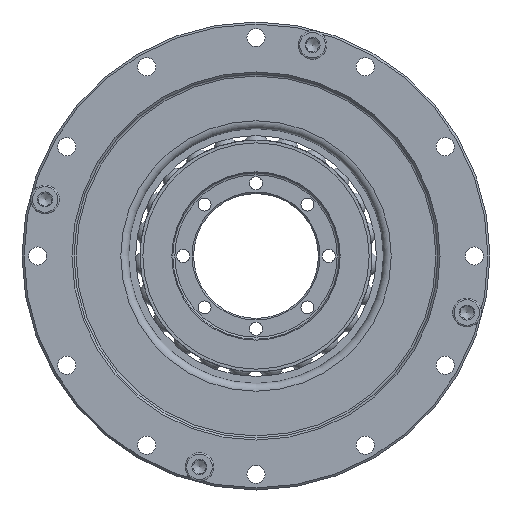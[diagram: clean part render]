
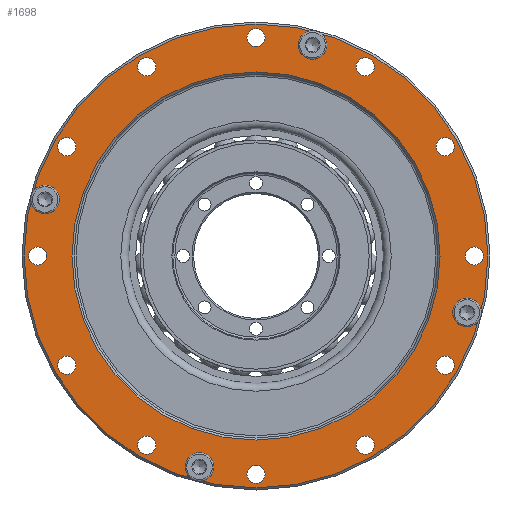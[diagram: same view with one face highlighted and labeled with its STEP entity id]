
A CAD part, left-side view. The second image highlights one B-rep face of the part: STEP entity #1698.
In plain terms, the highlighted planar face has unit normal (-1, 0, 0).
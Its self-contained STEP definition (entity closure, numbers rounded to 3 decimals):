
#1698=ADVANCED_FACE('',(#2468,#2469,#2470,#2471,#2472,#2473,#2474,#2475,
#2476,#2477,#2478,#2479,#2480,#2481,#2482,#2483,#2484,#2485),#2263,.T.);
#2263=PLANE('',#8911);
#2468=FACE_BOUND('',#3217,.T.);
#2469=FACE_BOUND('',#3218,.T.);
#2470=FACE_BOUND('',#3219,.T.);
#2471=FACE_BOUND('',#3220,.T.);
#2472=FACE_BOUND('',#3221,.T.);
#2473=FACE_BOUND('',#3222,.T.);
#2474=FACE_BOUND('',#3223,.T.);
#2475=FACE_BOUND('',#3224,.T.);
#2476=FACE_BOUND('',#3225,.T.);
#2477=FACE_BOUND('',#3226,.T.);
#2478=FACE_BOUND('',#3227,.T.);
#2479=FACE_BOUND('',#3228,.T.);
#2480=FACE_BOUND('',#3229,.T.);
#2481=FACE_BOUND('',#3230,.T.);
#2482=FACE_BOUND('',#3231,.T.);
#2483=FACE_BOUND('',#3232,.T.);
#2484=FACE_BOUND('',#3233,.T.);
#2485=FACE_BOUND('',#3234,.T.);
#3217=EDGE_LOOP('',(#4173));
#3218=EDGE_LOOP('',(#4174));
#3219=EDGE_LOOP('',(#4175));
#3220=EDGE_LOOP('',(#4176));
#3221=EDGE_LOOP('',(#4177));
#3222=EDGE_LOOP('',(#4178));
#3223=EDGE_LOOP('',(#4179));
#3224=EDGE_LOOP('',(#4180));
#3225=EDGE_LOOP('',(#4181));
#3226=EDGE_LOOP('',(#4182));
#3227=EDGE_LOOP('',(#4183));
#3228=EDGE_LOOP('',(#4184));
#3229=EDGE_LOOP('',(#4185));
#3230=EDGE_LOOP('',(#4186));
#3231=EDGE_LOOP('',(#4187));
#3232=EDGE_LOOP('',(#4188));
#3233=EDGE_LOOP('',(#4189));
#3234=EDGE_LOOP('',(#4190));
#4173=ORIENTED_EDGE('',*,*,#6996,.T.);
#4174=ORIENTED_EDGE('',*,*,#6997,.T.);
#4175=ORIENTED_EDGE('',*,*,#6990,.T.);
#4176=ORIENTED_EDGE('',*,*,#6989,.T.);
#4177=ORIENTED_EDGE('',*,*,#6988,.T.);
#4178=ORIENTED_EDGE('',*,*,#6987,.T.);
#4179=ORIENTED_EDGE('',*,*,#6986,.T.);
#4180=ORIENTED_EDGE('',*,*,#6985,.T.);
#4181=ORIENTED_EDGE('',*,*,#6984,.T.);
#4182=ORIENTED_EDGE('',*,*,#6983,.T.);
#4183=ORIENTED_EDGE('',*,*,#6982,.T.);
#4184=ORIENTED_EDGE('',*,*,#6981,.T.);
#4185=ORIENTED_EDGE('',*,*,#6980,.T.);
#4186=ORIENTED_EDGE('',*,*,#6979,.T.);
#4187=ORIENTED_EDGE('',*,*,#6978,.T.);
#4188=ORIENTED_EDGE('',*,*,#6977,.T.);
#4189=ORIENTED_EDGE('',*,*,#6976,.T.);
#4190=ORIENTED_EDGE('',*,*,#6975,.T.);
#6161=VERTEX_POINT('',#12496);
#6162=VERTEX_POINT('',#12499);
#6163=VERTEX_POINT('',#12502);
#6164=VERTEX_POINT('',#12505);
#6165=VERTEX_POINT('',#12508);
#6166=VERTEX_POINT('',#12511);
#6167=VERTEX_POINT('',#12514);
#6168=VERTEX_POINT('',#12517);
#6169=VERTEX_POINT('',#12520);
#6170=VERTEX_POINT('',#12523);
#6171=VERTEX_POINT('',#12526);
#6172=VERTEX_POINT('',#12529);
#6173=VERTEX_POINT('',#12532);
#6174=VERTEX_POINT('',#12535);
#6175=VERTEX_POINT('',#12538);
#6176=VERTEX_POINT('',#12541);
#6182=VERTEX_POINT('',#12557);
#6183=VERTEX_POINT('',#12559);
#6975=EDGE_CURVE('',#6161,#6161,#8108,.T.);
#6976=EDGE_CURVE('',#6162,#6162,#8109,.T.);
#6977=EDGE_CURVE('',#6163,#6163,#8110,.T.);
#6978=EDGE_CURVE('',#6164,#6164,#8111,.T.);
#6979=EDGE_CURVE('',#6165,#6165,#8112,.T.);
#6980=EDGE_CURVE('',#6166,#6166,#8113,.T.);
#6981=EDGE_CURVE('',#6167,#6167,#8114,.T.);
#6982=EDGE_CURVE('',#6168,#6168,#8115,.T.);
#6983=EDGE_CURVE('',#6169,#6169,#8116,.T.);
#6984=EDGE_CURVE('',#6170,#6170,#8117,.T.);
#6985=EDGE_CURVE('',#6171,#6171,#8118,.T.);
#6986=EDGE_CURVE('',#6172,#6172,#8119,.T.);
#6987=EDGE_CURVE('',#6173,#6173,#8120,.T.);
#6988=EDGE_CURVE('',#6174,#6174,#8121,.T.);
#6989=EDGE_CURVE('',#6175,#6175,#8122,.T.);
#6990=EDGE_CURVE('',#6176,#6176,#8123,.T.);
#6996=EDGE_CURVE('',#6182,#6182,#8129,.T.);
#6997=EDGE_CURVE('',#6183,#6183,#8130,.T.);
#8108=CIRCLE('',#8869,1.75);
#8109=CIRCLE('',#8871,1.75);
#8110=CIRCLE('',#8873,1.75);
#8111=CIRCLE('',#8875,1.75);
#8112=CIRCLE('',#8877,1.75);
#8113=CIRCLE('',#8879,1.75);
#8114=CIRCLE('',#8881,1.75);
#8115=CIRCLE('',#8883,1.75);
#8116=CIRCLE('',#8885,1.75);
#8117=CIRCLE('',#8887,1.75);
#8118=CIRCLE('',#8889,1.75);
#8119=CIRCLE('',#8891,1.75);
#8120=CIRCLE('',#8893,1.75);
#8121=CIRCLE('',#8895,1.75);
#8122=CIRCLE('',#8897,1.75);
#8123=CIRCLE('',#8899,1.75);
#8129=CIRCLE('',#8909,35.4);
#8130=CIRCLE('',#8910,44.6);
#8869=AXIS2_PLACEMENT_3D('',#12495,#10090,#10091);
#8871=AXIS2_PLACEMENT_3D('',#12498,#10094,#10095);
#8873=AXIS2_PLACEMENT_3D('',#12501,#10098,#10099);
#8875=AXIS2_PLACEMENT_3D('',#12504,#10102,#10103);
#8877=AXIS2_PLACEMENT_3D('',#12507,#10106,#10107);
#8879=AXIS2_PLACEMENT_3D('',#12510,#10110,#10111);
#8881=AXIS2_PLACEMENT_3D('',#12513,#10114,#10115);
#8883=AXIS2_PLACEMENT_3D('',#12516,#10118,#10119);
#8885=AXIS2_PLACEMENT_3D('',#12519,#10122,#10123);
#8887=AXIS2_PLACEMENT_3D('',#12522,#10126,#10127);
#8889=AXIS2_PLACEMENT_3D('',#12525,#10130,#10131);
#8891=AXIS2_PLACEMENT_3D('',#12528,#10134,#10135);
#8893=AXIS2_PLACEMENT_3D('',#12531,#10138,#10139);
#8895=AXIS2_PLACEMENT_3D('',#12534,#10142,#10143);
#8897=AXIS2_PLACEMENT_3D('',#12537,#10146,#10147);
#8899=AXIS2_PLACEMENT_3D('',#12540,#10150,#10151);
#8909=AXIS2_PLACEMENT_3D('',#12556,#10170,#10171);
#8910=AXIS2_PLACEMENT_3D('',#12558,#10172,#10173);
#8911=AXIS2_PLACEMENT_3D('',#12560,#10174,#10175);
#10090=DIRECTION('',(1.,0.,0.));
#10091=DIRECTION('',(0.,-0.5,-0.866));
#10094=DIRECTION('',(1.,0.,0.));
#10095=DIRECTION('',(0.,-0.5,-0.866));
#10098=DIRECTION('',(1.,0.,0.));
#10099=DIRECTION('',(0.,-0.5,-0.866));
#10102=DIRECTION('',(1.,0.,0.));
#10103=DIRECTION('',(0.,-0.5,-0.866));
#10106=DIRECTION('',(1.,0.,0.));
#10107=DIRECTION('',(0.,-0.5,-0.866));
#10110=DIRECTION('',(1.,0.,0.));
#10111=DIRECTION('',(0.,-0.5,-0.866));
#10114=DIRECTION('',(1.,0.,0.));
#10115=DIRECTION('',(0.,-0.5,-0.866));
#10118=DIRECTION('',(1.,0.,0.));
#10119=DIRECTION('',(0.,-0.5,-0.866));
#10122=DIRECTION('',(1.,0.,0.));
#10123=DIRECTION('',(0.,-0.5,-0.866));
#10126=DIRECTION('',(1.,0.,0.));
#10127=DIRECTION('',(0.,-0.5,-0.866));
#10130=DIRECTION('',(1.,0.,0.));
#10131=DIRECTION('',(0.,-0.5,-0.866));
#10134=DIRECTION('',(1.,0.,0.));
#10135=DIRECTION('',(0.,-0.5,-0.866));
#10138=DIRECTION('',(1.,0.,0.));
#10139=DIRECTION('',(0.,-0.5,-0.866));
#10142=DIRECTION('',(1.,0.,0.));
#10143=DIRECTION('',(0.,-0.5,-0.866));
#10146=DIRECTION('',(1.,0.,0.));
#10147=DIRECTION('',(0.,-0.5,-0.866));
#10150=DIRECTION('',(1.,0.,0.));
#10151=DIRECTION('',(0.,-0.5,-0.866));
#10170=DIRECTION('',(1.,0.,0.));
#10171=DIRECTION('',(0.,0.5,0.866));
#10172=DIRECTION('',(-1.,0.,0.));
#10173=DIRECTION('',(0.,0.5,0.866));
#10174=DIRECTION('',(-1.,0.,0.));
#10175=DIRECTION('',(0.,0.5,0.866));
#12495=CARTESIAN_POINT('',(-29.,21.,36.373));
#12496=CARTESIAN_POINT('',(-29.,20.125,34.858));
#12498=CARTESIAN_POINT('',(-29.,0.,42.));
#12499=CARTESIAN_POINT('',(-29.,-0.875,40.484));
#12501=CARTESIAN_POINT('',(-29.,-21.,36.373));
#12502=CARTESIAN_POINT('',(-29.,-21.875,34.858));
#12504=CARTESIAN_POINT('',(-29.,-36.373,21.));
#12505=CARTESIAN_POINT('',(-29.,-37.248,19.484));
#12507=CARTESIAN_POINT('',(-29.,-42.,0.));
#12508=CARTESIAN_POINT('',(-29.,-42.875,-1.516));
#12510=CARTESIAN_POINT('',(-29.,-36.373,-21.));
#12511=CARTESIAN_POINT('',(-29.,-37.248,-22.516));
#12513=CARTESIAN_POINT('',(-29.,-21.,-36.373));
#12514=CARTESIAN_POINT('',(-29.,-21.875,-37.889));
#12516=CARTESIAN_POINT('',(-29.,0.,-42.));
#12517=CARTESIAN_POINT('',(-29.,-0.875,-43.516));
#12519=CARTESIAN_POINT('',(-29.,21.,-36.373));
#12520=CARTESIAN_POINT('',(-29.,20.125,-37.889));
#12522=CARTESIAN_POINT('',(-29.,36.373,-21.));
#12523=CARTESIAN_POINT('',(-29.,35.498,-22.516));
#12525=CARTESIAN_POINT('',(-29.,42.,0.));
#12526=CARTESIAN_POINT('',(-29.,41.125,-1.516));
#12528=CARTESIAN_POINT('',(-29.,36.373,21.));
#12529=CARTESIAN_POINT('',(-29.,35.498,19.484));
#12531=CARTESIAN_POINT('',(-29.,40.569,10.87));
#12532=CARTESIAN_POINT('',(-29.,39.694,9.355));
#12534=CARTESIAN_POINT('',(-29.,-10.87,40.569));
#12535=CARTESIAN_POINT('',(-29.,-11.745,39.053));
#12537=CARTESIAN_POINT('',(-29.,-40.569,-10.87));
#12538=CARTESIAN_POINT('',(-29.,-41.444,-12.386));
#12540=CARTESIAN_POINT('',(-29.,10.87,-40.569));
#12541=CARTESIAN_POINT('',(-29.,9.995,-42.084));
#12556=CARTESIAN_POINT('',(-29.,0.,0.));
#12557=CARTESIAN_POINT('',(-29.,17.7,30.657));
#12558=CARTESIAN_POINT('',(-29.,0.,0.));
#12559=CARTESIAN_POINT('',(-29.,22.3,38.625));
#12560=CARTESIAN_POINT('',(-29.,30.311,-17.5));
